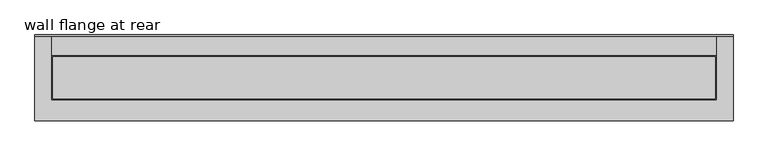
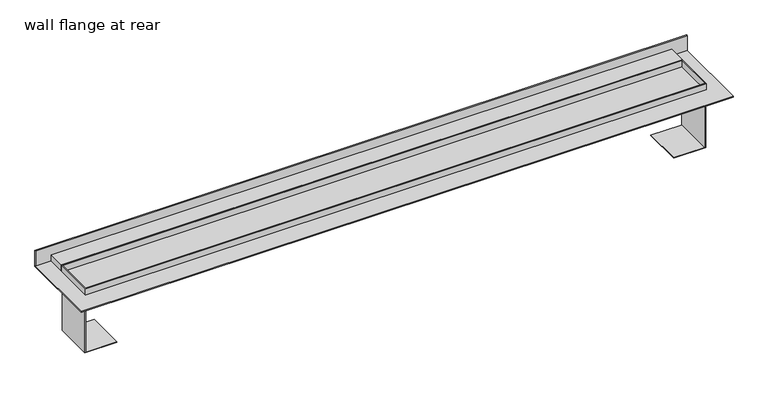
"""IFC4 building model written with IfcOpenShell, lengths in millimetres: sanitary terminal geometry, PF_ST_UN_ShowerDrain M plus_ACO : wall flange at rear."""

from ifc_helpers import new_model, si_unit, frame, origin, origin_with_axes, place, context, project, spatial, polyline, outline, extrude, faceted_brep, source, transform, mapped, element, save


def wall_flange_at_rear_5062b522(model_context):
    return source(origin(), model_context, "Body", "SolidModel", [
        extrude(outline(polyline([(630.0, 77.0), (630.0, -78.0), (-630.0, -78.0), (-630.0, 77.0), (630.0, 77.0)])), origin_with_axes(), (0.0, 0.0, 1.0), 2.0),
        extrude(outline(polyline([(-16.5, -598.0), (-16.5, -600.0), (-117.5, -600.0), (-117.5, -538.0), (-116.5, -538.0), (-116.5, -598.0), (-16.5, -598.0)])), frame((0.0, -38.0, 0.0), z_axis=(0.0, 1.0, 0.0), x_axis=(0.0, 0.0, 1.0)), (0.0, 0.0, 1.0), 76.0),
        extrude(outline(polyline([(-16.5, 598.0), (-116.5, 598.0), (-116.5, 538.0), (-117.5, 538.0), (-117.5, 600.0), (-16.5, 600.0), (-16.5, 598.0)])), frame((0.0, -38.0, 0.0), z_axis=(0.0, 1.0, 0.0), x_axis=(0.0, 0.0, 1.0)), (0.0, 0.0, 1.0), 76.0),
        faceted_brep([(-600.0, 75.0, 15.0), (-600.0, 40.0, 15.0), (600.0, 40.0, 15.0), (600.0, 75.0, 15.0), (600.0, 75.0, 2.0), (600.0, 40.0, 2.0), (-600.0, 40.0, 2.0), (-600.0, 75.0, 2.0), (630.0, 77.0, 33.0), (-630.0, 77.0, 33.0), (-630.0, 75.0, 33.0), (630.0, 75.0, 33.0), (630.0, 77.0, 0.0), (630.0, 75.0, 0.0), (-630.0, 75.0, 0.0), (-630.0, 77.0, 0.0)], [[[0, 1, 2, 3]], [[4, 5, 6, 7]], [[1, 0, 7, 6]], [[2, 1, 6, 5]], [[3, 2, 5, 4]], [[8, 9, 10, 11]], [[12, 13, 14, 15]], [[9, 8, 12, 15]], [[10, 9, 15, 14]], [[11, 10, 14, 13], [0, 3, 4, 7]], [[8, 11, 13, 12]]]),
        faceted_brep([(600.0, 40.0, 15.0), (-600.0, 40.0, 15.0), (-600.0, -40.0, 15.0), (600.0, -40.0, 15.0), (-598.0, -38.0, 15.0), (-598.0, 38.0, 15.0), (598.0, 38.0, 15.0), (598.0, -38.0, 15.0), (600.0, 40.0, -16.5), (600.0, -40.0, -16.5), (-600.0, -40.0, -16.5), (-600.0, 40.0, -16.5), (-598.0, 38.0, -6.0), (-598.0, -38.0, -6.0), (598.0, -38.0, -6.0), (598.0, 38.0, -6.0)], [[[0, 1, 2, 3], [4, 5, 6, 7]], [[8, 9, 10, 11]], [[1, 0, 8, 11]], [[2, 1, 11, 10]], [[3, 2, 10, 9]], [[0, 3, 9, 8]], [[12, 13, 14, 15]], [[13, 12, 5, 4]], [[14, 13, 4, 7]], [[15, 14, 7, 6]], [[12, 15, 6, 5]]]),
    ])


if __name__ == "__main__":
    model = new_model("IFC4")
    model_context = context("Model", 3, world=origin())
    ifc_project = project(units=[si_unit("LENGTHUNIT", "METRE", prefix="MILLI")], contexts=[model_context])
    site = spatial("IfcSite", under=ifc_project)
    building = spatial("IfcBuilding", under=site)
    placement = place(None, origin())
    wall_flange_at_rear_shape = wall_flange_at_rear_5062b522(model_context)
    element("IfcSanitaryTerminal", 1, ObjectType="PF_ST_UN_ShowerDrain M plus_ACO : wall flange at rear", at=placement, inside=building, context=model_context, shape_type="MappedRepresentation", body=[
        mapped(wall_flange_at_rear_shape, transform((0.0, 0.0, 0.0), x_axis=(1.0, 0.0, 0.0), y_axis=(0.0, 1.0, 0.0), z_axis=(0.0, 0.0, 1.0))),
    ])
    save(model, "model.ifc")
